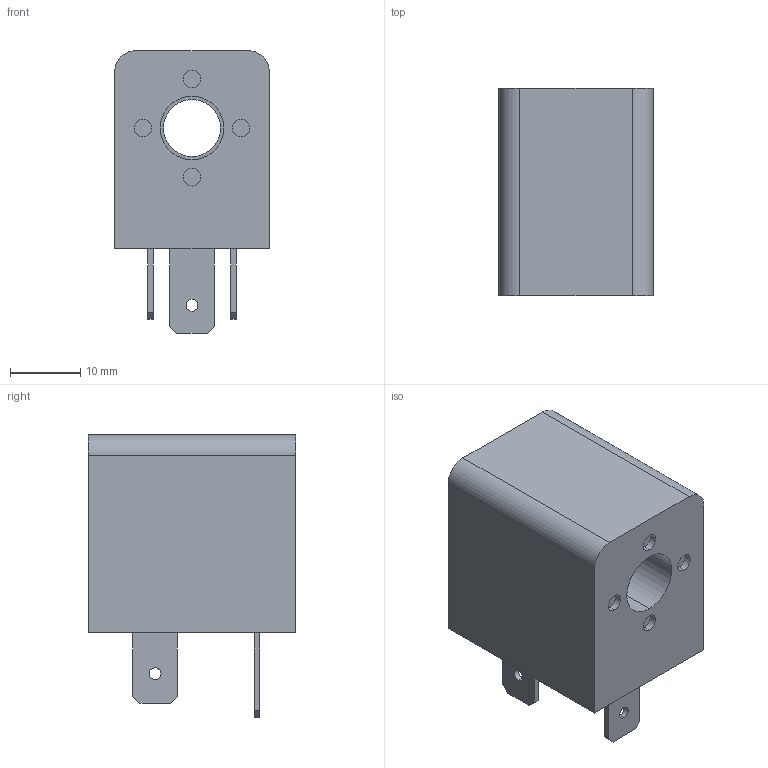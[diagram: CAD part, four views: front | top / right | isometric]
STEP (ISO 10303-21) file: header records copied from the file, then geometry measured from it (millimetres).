
FILE_DESCRIPTION (( 'STEP AP214' ), '1' );
FILE_NAME ('282492.STEP', '2013-01-24T10:54:06', ( 'ST01' ), ( '' ), 'SwSTEP 2.0', 'SolidWorks 2012', '' );
FILE_SCHEMA (( 'AUTOMOTIVE_DESIGN' ));
Length unit declared in the file: millimetre
Products named in the file (1): 282492
Bounding box: 22 x 29.5 x 40.2 mm (x, y, z)
Volume: 16203.7 mm3; surface area: 5411.3 mm2
Topology: 1 solids, 1 shells, 63 faces, 150 edges, 97 vertices
Faces by surface type: plane 33, cylinder 24, cone 6
Entity records: 2315 total; most frequent: DIRECTION 328, CARTESIAN_POINT 309, ORIENTED_EDGE 296, EDGE_CURVE 148, AXIS2_PLACEMENT_3D 116, VERTEX_POINT 97, VECTOR 96, LINE 96
